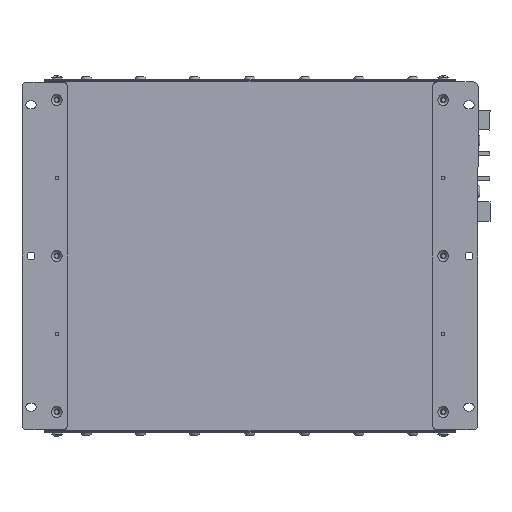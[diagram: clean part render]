
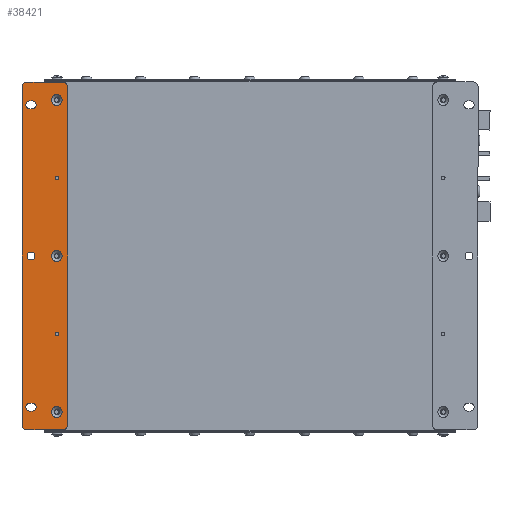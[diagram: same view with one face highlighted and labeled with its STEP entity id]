
A CAD part, front view. The second image highlights one B-rep face of the part: STEP entity #38421.
In plain terms, the highlighted planar face has unit normal (0, -1, 0) as drawn and (0, 1, 0) by its records, which use the part's own axes.
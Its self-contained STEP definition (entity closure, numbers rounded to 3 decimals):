
#3518=FACE_BOUND('',#7105,.T.);
#3519=FACE_BOUND('',#7106,.T.);
#3520=FACE_BOUND('',#7107,.T.);
#3521=FACE_BOUND('',#7108,.T.);
#3522=FACE_BOUND('',#7109,.T.);
#3523=FACE_BOUND('',#7110,.T.);
#3524=FACE_BOUND('',#7111,.T.);
#3525=FACE_BOUND('',#7112,.T.);
#3854=PLANE('',#40676);
#4987=FACE_OUTER_BOUND('',#7104,.T.);
#7104=EDGE_LOOP('',(#26981,#26982,#26983,#26984,#26985,#26986,#26987,#26988));
#7105=EDGE_LOOP('',(#26989));
#7106=EDGE_LOOP('',(#26990));
#7107=EDGE_LOOP('',(#26991));
#7108=EDGE_LOOP('',(#26992,#26993,#26994,#26995));
#7109=EDGE_LOOP('',(#26996,#26997,#26998,#26999));
#7110=EDGE_LOOP('',(#27000));
#7111=EDGE_LOOP('',(#27001));
#7112=EDGE_LOOP('',(#27002));
#9557=LINE('',#54798,#12754);
#9558=LINE('',#54802,#12755);
#9559=LINE('',#54806,#12756);
#9560=LINE('',#54809,#12757);
#9561=LINE('',#54820,#12758);
#9562=LINE('',#54823,#12759);
#9563=LINE('',#54828,#12760);
#9564=LINE('',#54831,#12761);
#12754=VECTOR('',#44325,10.);
#12755=VECTOR('',#44328,10.);
#12756=VECTOR('',#44331,10.);
#12757=VECTOR('',#44334,10.);
#12758=VECTOR('',#44343,10.);
#12759=VECTOR('',#44346,10.);
#12760=VECTOR('',#44349,10.);
#12761=VECTOR('',#44352,10.);
#15950=CIRCLE('',#40674,4.55);
#15952=CIRCLE('',#40677,4.);
#15953=CIRCLE('',#40678,4.);
#15954=CIRCLE('',#40679,4.);
#15955=CIRCLE('',#40680,4.);
#15956=CIRCLE('',#40681,4.55);
#15957=CIRCLE('',#40682,1.5);
#15958=CIRCLE('',#40683,1.5);
#15959=CIRCLE('',#40684,3.3);
#15960=CIRCLE('',#40685,3.3);
#15961=CIRCLE('',#40686,3.3);
#15962=CIRCLE('',#40687,3.3);
#15963=CIRCLE('',#40688,3.3);
#15964=CIRCLE('',#40689,4.55);
#17522=VERTEX_POINT('',#54788);
#17524=VERTEX_POINT('',#54794);
#17525=VERTEX_POINT('',#54795);
#17526=VERTEX_POINT('',#54797);
#17527=VERTEX_POINT('',#54799);
#17528=VERTEX_POINT('',#54801);
#17529=VERTEX_POINT('',#54803);
#17530=VERTEX_POINT('',#54805);
#17531=VERTEX_POINT('',#54807);
#17532=VERTEX_POINT('',#54810);
#17533=VERTEX_POINT('',#54812);
#17534=VERTEX_POINT('',#54814);
#17535=VERTEX_POINT('',#54816);
#17536=VERTEX_POINT('',#54817);
#17537=VERTEX_POINT('',#54819);
#17538=VERTEX_POINT('',#54821);
#17539=VERTEX_POINT('',#54824);
#17540=VERTEX_POINT('',#54825);
#17541=VERTEX_POINT('',#54827);
#17542=VERTEX_POINT('',#54829);
#17543=VERTEX_POINT('',#54832);
#17544=VERTEX_POINT('',#54834);
#21265=EDGE_CURVE('',#17522,#17522,#15950,.T.);
#21268=EDGE_CURVE('',#17524,#17525,#15952,.T.);
#21269=EDGE_CURVE('',#17525,#17526,#9557,.T.);
#21270=EDGE_CURVE('',#17526,#17527,#15953,.T.);
#21271=EDGE_CURVE('',#17527,#17528,#9558,.T.);
#21272=EDGE_CURVE('',#17528,#17529,#15954,.T.);
#21273=EDGE_CURVE('',#17529,#17530,#9559,.T.);
#21274=EDGE_CURVE('',#17530,#17531,#15955,.T.);
#21275=EDGE_CURVE('',#17531,#17524,#9560,.T.);
#21276=EDGE_CURVE('',#17532,#17532,#15956,.T.);
#21277=EDGE_CURVE('',#17533,#17533,#15957,.T.);
#21278=EDGE_CURVE('',#17534,#17534,#15958,.T.);
#21279=EDGE_CURVE('',#17535,#17536,#15959,.T.);
#21280=EDGE_CURVE('',#17536,#17537,#9561,.T.);
#21281=EDGE_CURVE('',#17537,#17538,#15960,.T.);
#21282=EDGE_CURVE('',#17538,#17535,#9562,.T.);
#21283=EDGE_CURVE('',#17539,#17540,#15961,.T.);
#21284=EDGE_CURVE('',#17540,#17541,#9563,.T.);
#21285=EDGE_CURVE('',#17541,#17542,#15962,.T.);
#21286=EDGE_CURVE('',#17542,#17539,#9564,.T.);
#21287=EDGE_CURVE('',#17543,#17543,#15963,.T.);
#21288=EDGE_CURVE('',#17544,#17544,#15964,.T.);
#26981=ORIENTED_EDGE('',*,*,#21268,.T.);
#26982=ORIENTED_EDGE('',*,*,#21269,.T.);
#26983=ORIENTED_EDGE('',*,*,#21270,.T.);
#26984=ORIENTED_EDGE('',*,*,#21271,.T.);
#26985=ORIENTED_EDGE('',*,*,#21272,.T.);
#26986=ORIENTED_EDGE('',*,*,#21273,.T.);
#26987=ORIENTED_EDGE('',*,*,#21274,.T.);
#26988=ORIENTED_EDGE('',*,*,#21275,.T.);
#26989=ORIENTED_EDGE('',*,*,#21276,.F.);
#26990=ORIENTED_EDGE('',*,*,#21277,.T.);
#26991=ORIENTED_EDGE('',*,*,#21278,.T.);
#26992=ORIENTED_EDGE('',*,*,#21279,.T.);
#26993=ORIENTED_EDGE('',*,*,#21280,.T.);
#26994=ORIENTED_EDGE('',*,*,#21281,.T.);
#26995=ORIENTED_EDGE('',*,*,#21282,.T.);
#26996=ORIENTED_EDGE('',*,*,#21283,.T.);
#26997=ORIENTED_EDGE('',*,*,#21284,.T.);
#26998=ORIENTED_EDGE('',*,*,#21285,.T.);
#26999=ORIENTED_EDGE('',*,*,#21286,.T.);
#27000=ORIENTED_EDGE('',*,*,#21287,.T.);
#27001=ORIENTED_EDGE('',*,*,#21288,.F.);
#27002=ORIENTED_EDGE('',*,*,#21265,.F.);
#38421=ADVANCED_FACE('',(#4987,#3518,#3519,#3520,#3521,#3522,#3523,#3524,
#3525),#3854,.T.);
#40674=AXIS2_PLACEMENT_3D('',#54789,#44316,#44317);
#40676=AXIS2_PLACEMENT_3D('',#54793,#44321,#44322);
#40677=AXIS2_PLACEMENT_3D('',#54796,#44323,#44324);
#40678=AXIS2_PLACEMENT_3D('',#54800,#44326,#44327);
#40679=AXIS2_PLACEMENT_3D('',#54804,#44329,#44330);
#40680=AXIS2_PLACEMENT_3D('',#54808,#44332,#44333);
#40681=AXIS2_PLACEMENT_3D('',#54811,#44335,#44336);
#40682=AXIS2_PLACEMENT_3D('',#54813,#44337,#44338);
#40683=AXIS2_PLACEMENT_3D('',#54815,#44339,#44340);
#40684=AXIS2_PLACEMENT_3D('',#54818,#44341,#44342);
#40685=AXIS2_PLACEMENT_3D('',#54822,#44344,#44345);
#40686=AXIS2_PLACEMENT_3D('',#54826,#44347,#44348);
#40687=AXIS2_PLACEMENT_3D('',#54830,#44350,#44351);
#40688=AXIS2_PLACEMENT_3D('',#54833,#44353,#44354);
#40689=AXIS2_PLACEMENT_3D('',#54835,#44355,#44356);
#44316=DIRECTION('center_axis',(0.,1.,0.));
#44317=DIRECTION('ref_axis',(1.,0.,0.));
#44321=DIRECTION('center_axis',(0.,1.,0.));
#44322=DIRECTION('ref_axis',(0.,0.,1.));
#44323=DIRECTION('center_axis',(0.,1.,0.));
#44324=DIRECTION('ref_axis',(-1.,0.,0.));
#44325=DIRECTION('',(1.,0.,0.));
#44326=DIRECTION('center_axis',(0.,1.,0.));
#44327=DIRECTION('ref_axis',(0.,0.,1.));
#44328=DIRECTION('',(0.,0.,-1.));
#44329=DIRECTION('center_axis',(0.,1.,0.));
#44330=DIRECTION('ref_axis',(1.,0.,0.));
#44331=DIRECTION('',(-1.,0.,0.));
#44332=DIRECTION('center_axis',(0.,1.,0.));
#44333=DIRECTION('ref_axis',(0.,0.,-1.));
#44334=DIRECTION('',(0.,0.,1.));
#44335=DIRECTION('center_axis',(0.,1.,0.));
#44336=DIRECTION('ref_axis',(1.,0.,0.));
#44337=DIRECTION('center_axis',(0.,-1.,0.));
#44338=DIRECTION('ref_axis',(1.,0.,0.));
#44339=DIRECTION('center_axis',(0.,-1.,0.));
#44340=DIRECTION('ref_axis',(1.,0.,0.));
#44341=DIRECTION('center_axis',(0.,-1.,0.));
#44342=DIRECTION('ref_axis',(-1.,0.,0.));
#44343=DIRECTION('',(0.,0.,1.));
#44344=DIRECTION('center_axis',(0.,-1.,0.));
#44345=DIRECTION('ref_axis',(1.,0.,0.));
#44346=DIRECTION('',(0.,0.,-1.));
#44347=DIRECTION('center_axis',(0.,-1.,0.));
#44348=DIRECTION('ref_axis',(-1.,0.,0.));
#44349=DIRECTION('',(0.,0.,1.));
#44350=DIRECTION('center_axis',(0.,-1.,0.));
#44351=DIRECTION('ref_axis',(1.,0.,0.));
#44352=DIRECTION('',(0.,0.,-1.));
#44353=DIRECTION('center_axis',(0.,-1.,0.));
#44354=DIRECTION('ref_axis',(1.,0.,0.));
#44355=DIRECTION('center_axis',(0.,1.,0.));
#44356=DIRECTION('ref_axis',(1.,0.,0.));
#54788=CARTESIAN_POINT('',(130.568,3.,-128.862));
#54789=CARTESIAN_POINT('Origin',(135.118,3.,-128.862));
#54793=CARTESIAN_POINT('Origin',(5.118,3.,-118.862));
#54794=CARTESIAN_POINT('',(-139.882,3.,-103.862));
#54795=CARTESIAN_POINT('',(-135.882,3.,-99.862));
#54796=CARTESIAN_POINT('Origin',(-135.882,3.,-103.862));
#54797=CARTESIAN_POINT('',(146.118,3.,-99.862));
#54798=CARTESIAN_POINT('',(-135.882,3.,-99.862));
#54799=CARTESIAN_POINT('',(150.118,3.,-103.862));
#54800=CARTESIAN_POINT('Origin',(146.118,3.,-103.862));
#54801=CARTESIAN_POINT('',(150.118,3.,-133.862));
#54802=CARTESIAN_POINT('',(150.118,3.,-103.862));
#54803=CARTESIAN_POINT('',(146.118,3.,-137.862));
#54804=CARTESIAN_POINT('Origin',(146.118,3.,-133.862));
#54805=CARTESIAN_POINT('',(-135.882,3.,-137.862));
#54806=CARTESIAN_POINT('',(146.118,3.,-137.862));
#54807=CARTESIAN_POINT('',(-139.882,3.,-133.862));
#54808=CARTESIAN_POINT('Origin',(-135.882,3.,-133.862));
#54809=CARTESIAN_POINT('',(-139.882,3.,-133.862));
#54810=CARTESIAN_POINT('',(0.568,3.,-128.862));
#54811=CARTESIAN_POINT('Origin',(5.118,3.,-128.862));
#54812=CARTESIAN_POINT('',(-61.382,3.,-128.862));
#54813=CARTESIAN_POINT('Origin',(-59.882,3.,-128.862));
#54814=CARTESIAN_POINT('',(68.618,3.,-128.862));
#54815=CARTESIAN_POINT('Origin',(70.118,3.,-128.862));
#54816=CARTESIAN_POINT('',(127.818,3.,-108.362));
#54817=CARTESIAN_POINT('',(134.418,3.,-108.362));
#54818=CARTESIAN_POINT('Origin',(131.118,3.,-108.362));
#54819=CARTESIAN_POINT('',(134.418,3.,-106.362));
#54820=CARTESIAN_POINT('',(134.418,3.,-112.612));
#54821=CARTESIAN_POINT('',(127.818,3.,-106.362));
#54822=CARTESIAN_POINT('Origin',(131.118,3.,-106.362));
#54823=CARTESIAN_POINT('',(127.818,3.,-113.612));
#54824=CARTESIAN_POINT('',(-124.182,3.,-108.362));
#54825=CARTESIAN_POINT('',(-117.582,3.,-108.362));
#54826=CARTESIAN_POINT('Origin',(-120.882,3.,-108.362));
#54827=CARTESIAN_POINT('',(-117.582,3.,-106.362));
#54828=CARTESIAN_POINT('',(-117.582,3.,-112.612));
#54829=CARTESIAN_POINT('',(-124.182,3.,-106.362));
#54830=CARTESIAN_POINT('Origin',(-120.882,3.,-106.362));
#54831=CARTESIAN_POINT('',(-124.182,3.,-113.612));
#54832=CARTESIAN_POINT('',(1.818,3.,-107.362));
#54833=CARTESIAN_POINT('Origin',(5.118,3.,-107.362));
#54834=CARTESIAN_POINT('',(-129.432,3.,-128.862));
#54835=CARTESIAN_POINT('Origin',(-124.882,3.,-128.862));
